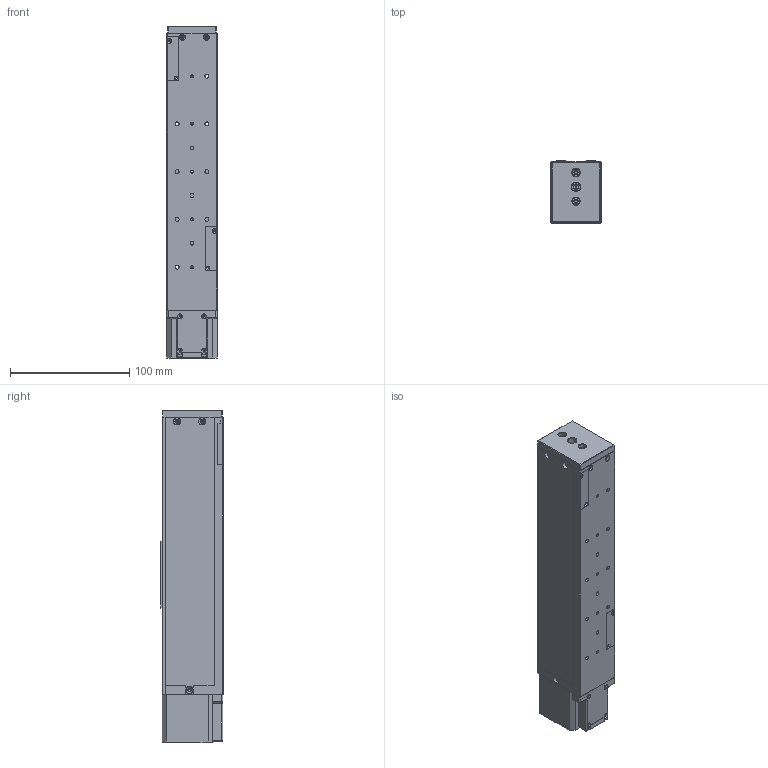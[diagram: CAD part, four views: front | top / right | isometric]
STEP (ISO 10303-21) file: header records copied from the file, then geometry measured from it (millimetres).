
FILE_DESCRIPTION (( 'STEP AP203' ), '1' );
FILE_NAME ('EM42A40-B05P150.STEP', '2023-10-28T06:15:14', ( '' ), ( '' ), 'SwSTEP 2.0', 'SolidWorks 2023', '' );
FILE_SCHEMA (( 'CONFIG_CONTROL_DESIGN' ));
Length unit declared in the file: millimetre
Products named in the file (17): 42-150光电滑台盖板; EM42A40-B05P150; JFM0507-05; 0805螺母; 42光电安装座; 42-150光电滑台分体基座; MGN15C滑块; 28-42前导光片; 42轴承调节组件; 42光电分体轴承座; 28-42端子线路板; 42-150分体侧板; 42轴承调节块; 42A40端子盖; MGN15-214导轨; 42A40-GZ0805-232电机; 28-42后导光片
Assembly tree (17 placements, depth 3):
  EM42A40-B05P150
    42-150光电滑台分体基座
    MGN15-214导轨
    MGN15C滑块
    42轴承调节组件
      42光电分体轴承座
      42轴承调节块
      JFM0507-05
    42光电安装座
    0805螺母
    42A40-GZ0805-232电机
    42-150分体侧板  x2
    42-150光电滑台盖板
    28-42前导光片
    28-42后导光片
    42A40端子盖
    28-42端子线路板
Bounding box: 42 x 52 x 278 mm (x, y, z)
Volume: 323511.8 mm3; surface area: 158608 mm2
Topology: 16 solids, 16 shells, 923 faces, 2473 edges, 1550 vertices
Faces by surface type: cylinder 454, plane 339, cone 113, torus 7, bspline 6, sphere 4
Entity records: 48727 total; most frequent: CARTESIAN_POINT 24521, DIRECTION 4728, ORIENTED_EDGE 4658, EDGE_CURVE 2329, AXIS2_PLACEMENT_3D 1699, VERTEX_POINT 1504, VECTOR 1330, LINE 1330
